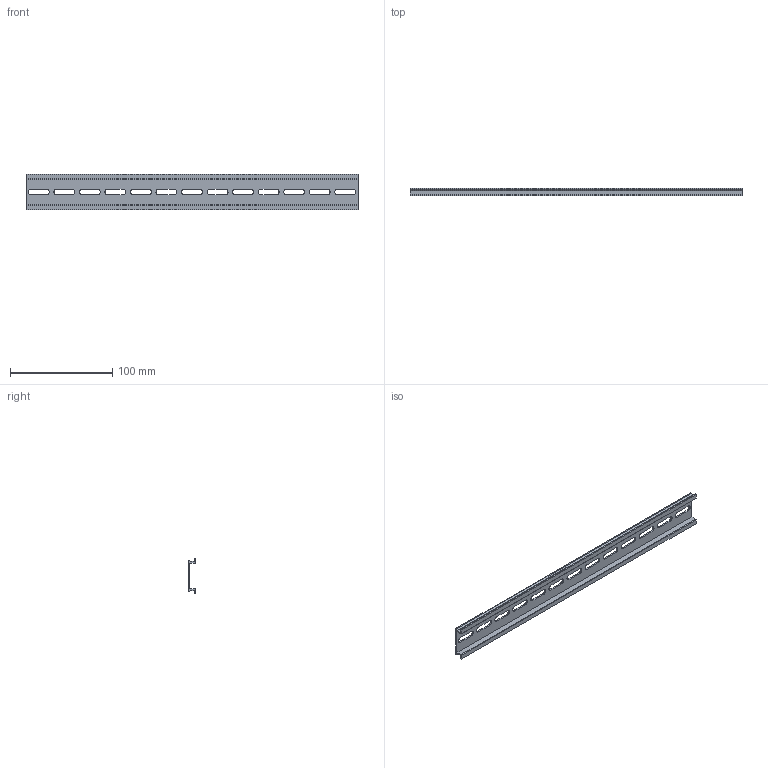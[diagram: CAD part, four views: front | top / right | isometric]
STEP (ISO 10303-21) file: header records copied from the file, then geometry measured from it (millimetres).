
FILE_DESCRIPTION( (''), '2;1');
FILE_NAME ('CVICAD02.15516.DIN-RAIL325_7397.stp','2020-09-01T14:18:24',(''),(''),'spGate 12.6.6','','');
FILE_SCHEMA (('AUTOMOTIVE_DESIGN'));
Length unit declared in the file: millimetre
Bounding box: 325 x 7.5 x 35 mm (x, y, z)
Volume: 22945 mm3; surface area: 30714.2 mm2
Topology: 1 solids, 1 shells, 72 faces, 210 edges, 140 vertices
Faces by surface type: plane 44, cylinder 28
Entity records: 4085 total; most frequent: CARTESIAN_POINT 422, ORIENTED_EDGE 420, DIRECTION 410, COLOUR_RGB 283, PRESENTATION_STYLE_ASSIGNMENT 283, STYLED_ITEM 283, EDGE_CURVE 210, DRAUGHTING_PRE_DEFINED_CURVE_FONT 210
